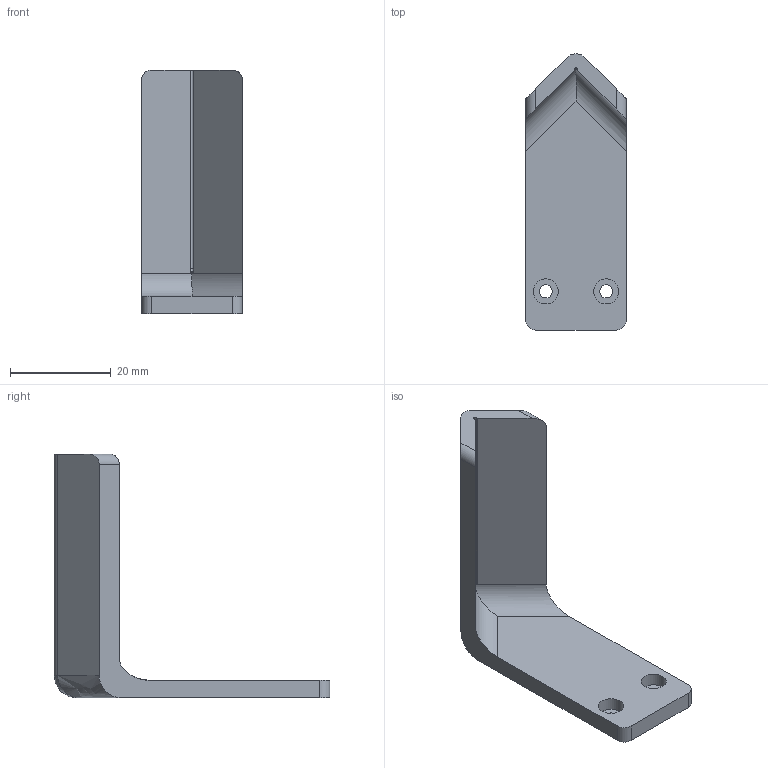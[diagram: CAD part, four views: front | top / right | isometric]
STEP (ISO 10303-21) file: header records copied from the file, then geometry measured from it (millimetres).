
FILE_DESCRIPTION(/* description */ (''),/* implementation_level */ '2;1');
FILE_NAME(/* name */ 'ORA Pointed Jaw Large.step',/* time_stamp */ '2024-09-26T15:31:30-07:00',/* author */ (''),/* organization */ (''),/* preprocessor_version */ 'ST-DEVELOPER v20',/* originating_system */ 'Autodesk Translation Framework v13.20.0.188',/* authorisation */ '');
FILE_SCHEMA (('AUTOMOTIVE_DESIGN { 1 0 10303 214 3 1 1 }'));
Length unit declared in the file: millimetre
Products named in the file (1): Gripper Lite Alternate Jaw
Bounding box: 20 x 54.85 x 48.5 mm (x, y, z)
Volume: 7003.1 mm3; surface area: 5358.4 mm2
Topology: 1 solids, 1 shells, 32 faces, 78 edges, 50 vertices
Faces by surface type: cylinder 14, plane 12, bspline 5, torus 1
Full cylindrical faces by diameter (mm): 2.6 x2, 5 x2
Entity records: 1207 total; most frequent: CARTESIAN_POINT 395, DIRECTION 161, ORIENTED_EDGE 156, EDGE_CURVE 78, AXIS2_PLACEMENT_3D 60, VERTEX_POINT 50, LINE 41, VECTOR 41
